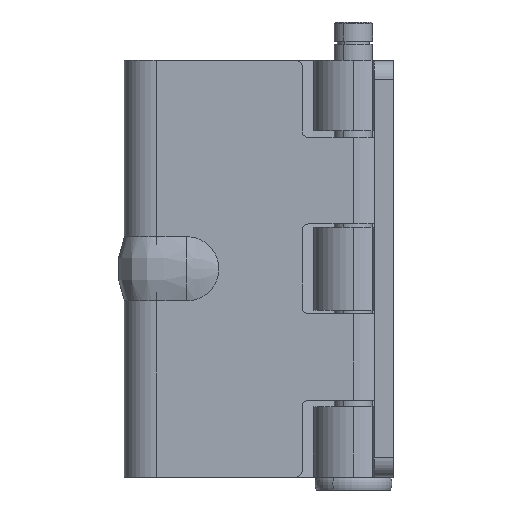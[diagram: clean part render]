
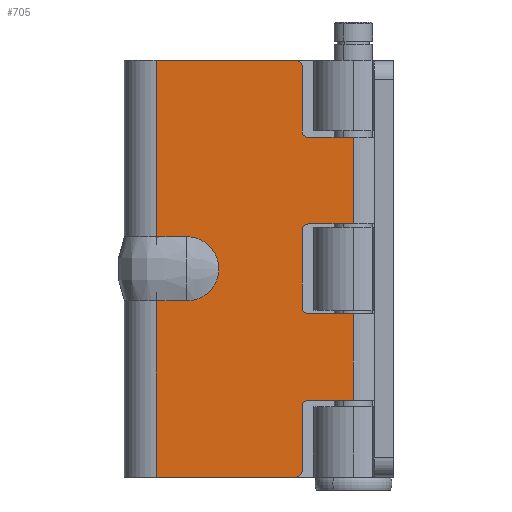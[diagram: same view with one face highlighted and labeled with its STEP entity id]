
A CAD part, left-side view. The second image highlights one B-rep face of the part: STEP entity #705.
In plain terms, the highlighted planar face has unit normal (-1, 0, 0).
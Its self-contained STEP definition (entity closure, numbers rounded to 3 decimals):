
#5 = LINE ( 'NONE', #130, #209 ) ;
#24 = VERTEX_POINT ( 'NONE', #1041 ) ;
#45 = EDGE_CURVE ( 'NONE', #3440, #1917, #1207, .T. ) ;
#120 = CARTESIAN_POINT ( 'NONE',  ( -6.25, 8., 31.5 ) ) ;
#130 = CARTESIAN_POINT ( 'NONE',  ( -6.25, 0., 20.5 ) ) ;
#137 = CIRCLE ( 'NONE', #1522, 1. ) ;
#152 = CARTESIAN_POINT ( 'NONE',  ( -6.25, 7., -21.5 ) ) ;
#159 = ORIENTED_EDGE ( 'NONE', *, *, #3357, .F. ) ;
#176 = CARTESIAN_POINT ( 'NONE',  ( -6.25, 0., 7. ) ) ;
#209 = VECTOR ( 'NONE', #4057, 1000. ) ;
#325 = VERTEX_POINT ( 'NONE', #1648 ) ;
#356 = VECTOR ( 'NONE', #3219, 1000. ) ;
#359 = ORIENTED_EDGE ( 'NONE', *, *, #1970, .T. ) ;
#394 = EDGE_CURVE ( 'NONE', #1917, #1329, #1271, .T. ) ;
#485 = ORIENTED_EDGE ( 'NONE', *, *, #45, .T. ) ;
#491 = DIRECTION ( 'NONE',  ( 0., 1., 0. ) ) ;
#494 = EDGE_CURVE ( 'NONE', #2106, #3366, #3581, .T. ) ;
#504 = ORIENTED_EDGE ( 'NONE', *, *, #494, .F. ) ;
#553 = DIRECTION ( 'NONE',  ( 0., 0., -1. ) ) ;
#573 = DIRECTION ( 'NONE',  ( 0., 0., -1. ) ) ;
#615 = EDGE_CURVE ( 'NONE', #1665, #3366, #4236, .T. ) ;
#617 = LINE ( 'NONE', #762, #712 ) ;
#622 = CARTESIAN_POINT ( 'NONE',  ( -6.25, 8., 0. ) ) ;
#670 = AXIS2_PLACEMENT_3D ( 'NONE', #1594, #3143, #3123 ) ;
#674 = CARTESIAN_POINT ( 'NONE',  ( -6.25, 0., 32.5 ) ) ;
#685 = CIRCLE ( 'NONE', #1025, 1. ) ;
#691 = DIRECTION ( 'NONE',  ( 0., 1., 0. ) ) ;
#705 = ADVANCED_FACE ( 'NONE', ( #1713 ), #2975, .F. ) ;
#712 = VECTOR ( 'NONE', #3065, 1000. ) ;
#735 = VECTOR ( 'NONE', #2432, 1000. ) ;
#746 = EDGE_CURVE ( 'NONE', #3096, #1329, #4114, .T. ) ;
#762 = CARTESIAN_POINT ( 'NONE',  ( -6.25, 8., 0. ) ) ;
#789 = CARTESIAN_POINT ( 'NONE',  ( -6.25, 8., -31.5 ) ) ;
#918 = CARTESIAN_POINT ( 'NONE',  ( -6.25, 0., -20.5 ) ) ;
#924 = ORIENTED_EDGE ( 'NONE', *, *, #2927, .T. ) ;
#957 = AXIS2_PLACEMENT_3D ( 'NONE', #1242, #3536, #1571 ) ;
#966 = VECTOR ( 'NONE', #2218, 1000. ) ;
#1001 = ORIENTED_EDGE ( 'NONE', *, *, #3660, .T. ) ;
#1021 = VECTOR ( 'NONE', #1931, 1000. ) ;
#1022 = DIRECTION ( 'NONE',  ( 1., 0., 0. ) ) ;
#1025 = AXIS2_PLACEMENT_3D ( 'NONE', #3184, #1561, #3910 ) ;
#1032 = CARTESIAN_POINT ( 'NONE',  ( -6.25, 7., -6. ) ) ;
#1041 = CARTESIAN_POINT ( 'NONE',  ( -6.25, 8., 21.5 ) ) ;
#1127 = EDGE_CURVE ( 'NONE', #1772, #1969, #685, .T. ) ;
#1146 = ORIENTED_EDGE ( 'NONE', *, *, #615, .T. ) ;
#1207 = CIRCLE ( 'NONE', #2807, 1. ) ;
#1242 = CARTESIAN_POINT ( 'NONE',  ( -6.25, 9., 31.5 ) ) ;
#1271 = LINE ( 'NONE', #3921, #3764 ) ;
#1329 = VERTEX_POINT ( 'NONE', #176 ) ;
#1365 = DIRECTION ( 'NONE',  ( 0., 1., 0. ) ) ;
#1410 = EDGE_CURVE ( 'NONE', #1418, #2106, #1617, .T. ) ;
#1418 = VERTEX_POINT ( 'NONE', #2455 ) ;
#1449 = ORIENTED_EDGE ( 'NONE', *, *, #2061, .T. ) ;
#1469 = EDGE_CURVE ( 'NONE', #2264, #1772, #4109, .T. ) ;
#1483 = LINE ( 'NONE', #2531, #4096 ) ;
#1509 = ORIENTED_EDGE ( 'NONE', *, *, #1469, .T. ) ;
#1522 = AXIS2_PLACEMENT_3D ( 'NONE', #152, #2468, #491 ) ;
#1528 = DIRECTION ( 'NONE',  ( 1., 0., 0. ) ) ;
#1561 = DIRECTION ( 'NONE',  ( -1., 0., 0. ) ) ;
#1571 = DIRECTION ( 'NONE',  ( 0., 1., 0. ) ) ;
#1594 = CARTESIAN_POINT ( 'NONE',  ( -6.25, 0., 32.5 ) ) ;
#1617 = LINE ( 'NONE', #1762, #735 ) ;
#1635 = CARTESIAN_POINT ( 'NONE',  ( -6.25, 0., 20.5 ) ) ;
#1648 = CARTESIAN_POINT ( 'NONE',  ( -6.25, 8., -6. ) ) ;
#1665 = VERTEX_POINT ( 'NONE', #2729 ) ;
#1700 = ORIENTED_EDGE ( 'NONE', *, *, #746, .F. ) ;
#1704 = EDGE_CURVE ( 'NONE', #2426, #3096, #5, .T. ) ;
#1713 = FACE_OUTER_BOUND ( 'NONE', #3878, .T. ) ;
#1762 = CARTESIAN_POINT ( 'NONE',  ( -6.25, 0., -7. ) ) ;
#1772 = VERTEX_POINT ( 'NONE', #3007 ) ;
#1791 = CIRCLE ( 'NONE', #957, 1. ) ;
#1916 = ORIENTED_EDGE ( 'NONE', *, *, #3555, .T. ) ;
#1917 = VERTEX_POINT ( 'NONE', #3728 ) ;
#1931 = DIRECTION ( 'NONE',  ( 0., 0., 1. ) ) ;
#1950 = CARTESIAN_POINT ( 'NONE',  ( -6.25, 8., 6. ) ) ;
#1969 = VERTEX_POINT ( 'NONE', #789 ) ;
#1970 = EDGE_CURVE ( 'NONE', #2165, #1665, #137, .T. ) ;
#2050 = VECTOR ( 'NONE', #2515, 1000. ) ;
#2058 = ORIENTED_EDGE ( 'NONE', *, *, #1127, .T. ) ;
#2061 = EDGE_CURVE ( 'NONE', #3884, #2264, #1483, .T. ) ;
#2068 = CIRCLE ( 'NONE', #3639, 1. ) ;
#2106 = VERTEX_POINT ( 'NONE', #3839 ) ;
#2138 = CARTESIAN_POINT ( 'NONE',  ( -6.25, 7., 20.5 ) ) ;
#2165 = VERTEX_POINT ( 'NONE', #3512 ) ;
#2185 = CARTESIAN_POINT ( 'NONE',  ( -6.25, 8., 0. ) ) ;
#2218 = DIRECTION ( 'NONE',  ( 0., 0., -1. ) ) ;
#2219 = LINE ( 'NONE', #2240, #356 ) ;
#2240 = CARTESIAN_POINT ( 'NONE',  ( -6.25, 0., 32.5 ) ) ;
#2264 = VERTEX_POINT ( 'NONE', #4211 ) ;
#2265 = ORIENTED_EDGE ( 'NONE', *, *, #394, .T. ) ;
#2330 = ORIENTED_EDGE ( 'NONE', *, *, #1704, .F. ) ;
#2377 = ORIENTED_EDGE ( 'NONE', *, *, #2517, .T. ) ;
#2410 = DIRECTION ( 'NONE',  ( 0., -1., 0. ) ) ;
#2426 = VERTEX_POINT ( 'NONE', #2138 ) ;
#2432 = DIRECTION ( 'NONE',  ( 0., -1., 0. ) ) ;
#2455 = CARTESIAN_POINT ( 'NONE',  ( -6.25, 7., -7. ) ) ;
#2468 = DIRECTION ( 'NONE',  ( 1., 0., 0. ) ) ;
#2510 = DIRECTION ( 'NONE',  ( 0., 0., 1. ) ) ;
#2515 = DIRECTION ( 'NONE',  ( 0., -1., 0. ) ) ;
#2517 = EDGE_CURVE ( 'NONE', #24, #3783, #3845, .T. ) ;
#2531 = CARTESIAN_POINT ( 'NONE',  ( -6.25, 30.75, 32.5 ) ) ;
#2727 = CARTESIAN_POINT ( 'NONE',  ( -6.25, 0., -32.5 ) ) ;
#2729 = CARTESIAN_POINT ( 'NONE',  ( -6.25, 7., -20.5 ) ) ;
#2761 = LINE ( 'NONE', #622, #1021 ) ;
#2807 = AXIS2_PLACEMENT_3D ( 'NONE', #3323, #1022, #691 ) ;
#2872 = VECTOR ( 'NONE', #2510, 1000. ) ;
#2927 = EDGE_CURVE ( 'NONE', #3783, #3223, #1791, .T. ) ;
#2970 = CARTESIAN_POINT ( 'NONE',  ( -6.25, 9., 32.5 ) ) ;
#2975 = PLANE ( 'NONE',  #670 ) ;
#3007 = CARTESIAN_POINT ( 'NONE',  ( -6.25, 9., -32.5 ) ) ;
#3065 = DIRECTION ( 'NONE',  ( 0., 0., 1. ) ) ;
#3095 = ORIENTED_EDGE ( 'NONE', *, *, #1410, .F. ) ;
#3096 = VERTEX_POINT ( 'NONE', #1635 ) ;
#3123 = DIRECTION ( 'NONE',  ( 0., 1., 0. ) ) ;
#3143 = DIRECTION ( 'NONE',  ( 1., 0., 0. ) ) ;
#3180 = CARTESIAN_POINT ( 'NONE',  ( -6.25, 30.75, 32.5 ) ) ;
#3184 = CARTESIAN_POINT ( 'NONE',  ( -6.25, 9., -31.5 ) ) ;
#3212 = CARTESIAN_POINT ( 'NONE',  ( -6.25, 0., 32.5 ) ) ;
#3219 = DIRECTION ( 'NONE',  ( 0., -1., 0. ) ) ;
#3223 = VERTEX_POINT ( 'NONE', #2970 ) ;
#3265 = VECTOR ( 'NONE', #573, 1000. ) ;
#3323 = CARTESIAN_POINT ( 'NONE',  ( -6.25, 7., 6. ) ) ;
#3326 = DIRECTION ( 'NONE',  ( 1., 0., 0. ) ) ;
#3353 = VECTOR ( 'NONE', #2410, 1000. ) ;
#3357 = EDGE_CURVE ( 'NONE', #3884, #3223, #2219, .T. ) ;
#3366 = VERTEX_POINT ( 'NONE', #918 ) ;
#3440 = VERTEX_POINT ( 'NONE', #1950 ) ;
#3471 = EDGE_CURVE ( 'NONE', #1969, #2165, #2761, .T. ) ;
#3492 = CARTESIAN_POINT ( 'NONE',  ( -6.25, 7., 21.5 ) ) ;
#3501 = AXIS2_PLACEMENT_3D ( 'NONE', #1032, #3326, #1365 ) ;
#3512 = CARTESIAN_POINT ( 'NONE',  ( -6.25, 8., -21.5 ) ) ;
#3536 = DIRECTION ( 'NONE',  ( -1., 0., 0. ) ) ;
#3538 = CIRCLE ( 'NONE', #3501, 1. ) ;
#3555 = EDGE_CURVE ( 'NONE', #1418, #325, #3538, .T. ) ;
#3558 = ORIENTED_EDGE ( 'NONE', *, *, #3821, .T. ) ;
#3581 = LINE ( 'NONE', #3212, #966 ) ;
#3639 = AXIS2_PLACEMENT_3D ( 'NONE', #3492, #1528, #3819 ) ;
#3660 = EDGE_CURVE ( 'NONE', #325, #3440, #617, .T. ) ;
#3728 = CARTESIAN_POINT ( 'NONE',  ( -6.25, 7., 7. ) ) ;
#3764 = VECTOR ( 'NONE', #3906, 1000. ) ;
#3783 = VERTEX_POINT ( 'NONE', #120 ) ;
#3819 = DIRECTION ( 'NONE',  ( 0., 1., 0. ) ) ;
#3821 = EDGE_CURVE ( 'NONE', #2426, #24, #2068, .T. ) ;
#3839 = CARTESIAN_POINT ( 'NONE',  ( -6.25, 0., -7. ) ) ;
#3845 = LINE ( 'NONE', #2185, #2872 ) ;
#3878 = EDGE_LOOP ( 'NONE', ( #1509, #2058, #4166, #359, #1146, #504, #3095, #1916, #1001, #485, #2265, #1700, #2330, #3558, #2377, #924, #159, #1449 ) ) ;
#3884 = VERTEX_POINT ( 'NONE', #3180 ) ;
#3906 = DIRECTION ( 'NONE',  ( 0., -1., 0. ) ) ;
#3910 = DIRECTION ( 'NONE',  ( 0., 1., 0. ) ) ;
#3921 = CARTESIAN_POINT ( 'NONE',  ( -6.25, 0., 7. ) ) ;
#4057 = DIRECTION ( 'NONE',  ( 0., -1., 0. ) ) ;
#4096 = VECTOR ( 'NONE', #553, 1000. ) ;
#4109 = LINE ( 'NONE', #2727, #3353 ) ;
#4114 = LINE ( 'NONE', #674, #3265 ) ;
#4130 = CARTESIAN_POINT ( 'NONE',  ( -6.25, 0., -20.5 ) ) ;
#4166 = ORIENTED_EDGE ( 'NONE', *, *, #3471, .T. ) ;
#4211 = CARTESIAN_POINT ( 'NONE',  ( -6.25, 30.75, -32.5 ) ) ;
#4236 = LINE ( 'NONE', #4130, #2050 ) ;
